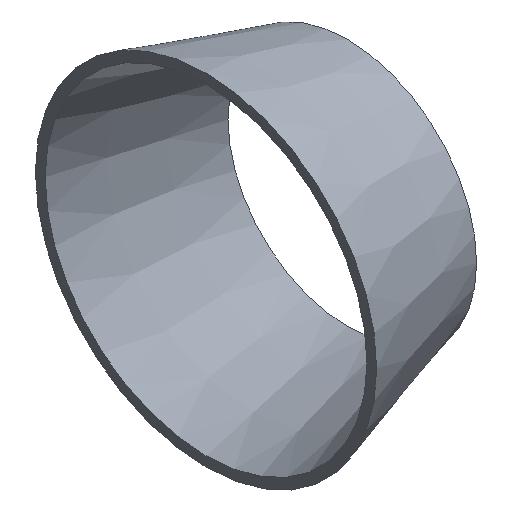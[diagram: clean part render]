
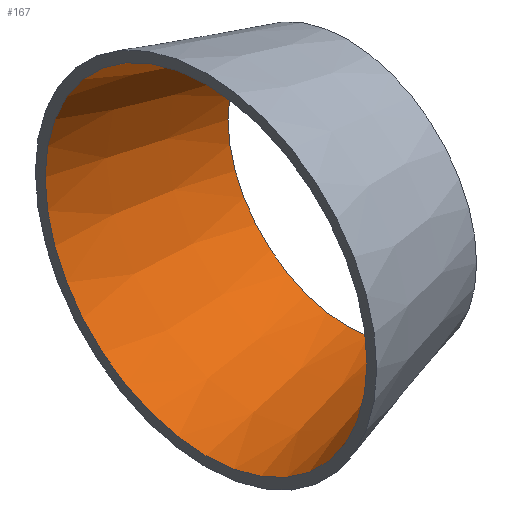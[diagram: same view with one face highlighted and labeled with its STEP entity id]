
A CAD part, isometric view. The second image highlights one B-rep face of the part: STEP entity #167.
In plain terms, the highlighted conical face has half-angle 16.336 degrees and reference radius 33 mm.
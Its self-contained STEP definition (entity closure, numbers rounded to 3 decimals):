
#43 = PLANE('',#44);
#44 = AXIS2_PLACEMENT_3D('',#45,#46,#47);
#45 = CARTESIAN_POINT('',(0.,0.,0.));
#46 = DIRECTION('',(1.,0.,0.));
#47 = DIRECTION('',(0.,1.,0.));
#90 = PLANE('',#91);
#91 = AXIS2_PLACEMENT_3D('',#92,#93,#94);
#92 = CARTESIAN_POINT('',(29.,0.,0.));
#93 = DIRECTION('',(1.,0.,0.));
#94 = DIRECTION('',(0.,1.,0.));
#109 = EDGE_CURVE('',#110,#110,#112,.T.);
#110 = VERTEX_POINT('',#111);
#111 = CARTESIAN_POINT('',(0.,33.,0.));
#112 = SURFACE_CURVE('',#113,(#118,#125),.PCURVE_S1.);
#113 = CIRCLE('',#114,33.);
#114 = AXIS2_PLACEMENT_3D('',#115,#116,#117);
#115 = CARTESIAN_POINT('',(0.,0.,0.));
#116 = DIRECTION('',(1.,0.,0.));
#117 = DIRECTION('',(0.,1.,0.));
#118 = PCURVE('',#43,#119);
#119 = DEFINITIONAL_REPRESENTATION('',(#120),#124);
#120 = CIRCLE('',#121,33.);
#121 = AXIS2_PLACEMENT_2D('',#122,#123);
#122 = CARTESIAN_POINT('',(0.,0.));
#123 = DIRECTION('',(1.,0.));
#124 = ( GEOMETRIC_REPRESENTATION_CONTEXT(2) 
PARAMETRIC_REPRESENTATION_CONTEXT() REPRESENTATION_CONTEXT('2D SPACE',''
  ) );
#125 = PCURVE('',#126,#131);
#126 = CONICAL_SURFACE('',#127,33.,0.285);
#127 = AXIS2_PLACEMENT_3D('',#128,#129,#130);
#128 = CARTESIAN_POINT('',(0.,0.,0.));
#129 = DIRECTION('',(-1.,-0.,-0.));
#130 = DIRECTION('',(0.,1.,0.));
#131 = DEFINITIONAL_REPRESENTATION('',(#132),#136);
#132 = LINE('',#133,#134);
#133 = CARTESIAN_POINT('',(-0.,-0.));
#134 = VECTOR('',#135,1.);
#135 = DIRECTION('',(-1.,-0.));
#136 = ( GEOMETRIC_REPRESENTATION_CONTEXT(2) 
PARAMETRIC_REPRESENTATION_CONTEXT() REPRESENTATION_CONTEXT('2D SPACE',''
  ) );
#144 = EDGE_CURVE('',#145,#145,#147,.T.);
#145 = VERTEX_POINT('',#146);
#146 = CARTESIAN_POINT('',(29.,24.5,0.));
#147 = SURFACE_CURVE('',#148,(#153,#160),.PCURVE_S1.);
#148 = CIRCLE('',#149,24.5);
#149 = AXIS2_PLACEMENT_3D('',#150,#151,#152);
#150 = CARTESIAN_POINT('',(29.,0.,0.));
#151 = DIRECTION('',(1.,0.,0.));
#152 = DIRECTION('',(0.,1.,0.));
#153 = PCURVE('',#90,#154);
#154 = DEFINITIONAL_REPRESENTATION('',(#155),#159);
#155 = CIRCLE('',#156,24.5);
#156 = AXIS2_PLACEMENT_2D('',#157,#158);
#157 = CARTESIAN_POINT('',(0.,0.));
#158 = DIRECTION('',(1.,0.));
#159 = ( GEOMETRIC_REPRESENTATION_CONTEXT(2) 
PARAMETRIC_REPRESENTATION_CONTEXT() REPRESENTATION_CONTEXT('2D SPACE',''
  ) );
#160 = PCURVE('',#126,#161);
#161 = DEFINITIONAL_REPRESENTATION('',(#162),#166);
#162 = LINE('',#163,#164);
#163 = CARTESIAN_POINT('',(-0.,-29.));
#164 = VECTOR('',#165,1.);
#165 = DIRECTION('',(-1.,-0.));
#166 = ( GEOMETRIC_REPRESENTATION_CONTEXT(2) 
PARAMETRIC_REPRESENTATION_CONTEXT() REPRESENTATION_CONTEXT('2D SPACE',''
  ) );
#167 = ADVANCED_FACE('',(#168),#126,.F.);
#168 = FACE_BOUND('',#169,.F.);
#169 = EDGE_LOOP('',(#170,#188,#189,#190));
#170 = ORIENTED_EDGE('',*,*,#171,.F.);
#171 = EDGE_CURVE('',#110,#145,#172,.T.);
#172 = SEAM_CURVE('',#173,(#176,#182),.PCURVE_S1.);
#173 = B_SPLINE_CURVE_WITH_KNOTS('',1,(#174,#175),.UNSPECIFIED.,.F.,.F.,
  (2,2),(0.,1.),.PIECEWISE_BEZIER_KNOTS.);
#174 = CARTESIAN_POINT('',(0.,33.,0.));
#175 = CARTESIAN_POINT('',(29.,24.5,0.));
#176 = PCURVE('',#126,#177);
#177 = DEFINITIONAL_REPRESENTATION('',(#178),#181);
#178 = B_SPLINE_CURVE_WITH_KNOTS('',1,(#179,#180),.UNSPECIFIED.,.F.,.F.,
  (2,2),(0.,1.),.PIECEWISE_BEZIER_KNOTS.);
#179 = CARTESIAN_POINT('',(0.,0.));
#180 = CARTESIAN_POINT('',(0.,-29.));
#181 = ( GEOMETRIC_REPRESENTATION_CONTEXT(2) 
PARAMETRIC_REPRESENTATION_CONTEXT() REPRESENTATION_CONTEXT('2D SPACE',''
  ) );
#182 = PCURVE('',#126,#183);
#183 = DEFINITIONAL_REPRESENTATION('',(#184),#187);
#184 = B_SPLINE_CURVE_WITH_KNOTS('',1,(#185,#186),.UNSPECIFIED.,.F.,.F.,
  (2,2),(0.,1.),.PIECEWISE_BEZIER_KNOTS.);
#185 = CARTESIAN_POINT('',(-6.283,0.));
#186 = CARTESIAN_POINT('',(-6.283,-29.));
#187 = ( GEOMETRIC_REPRESENTATION_CONTEXT(2) 
PARAMETRIC_REPRESENTATION_CONTEXT() REPRESENTATION_CONTEXT('2D SPACE',''
  ) );
#188 = ORIENTED_EDGE('',*,*,#109,.T.);
#189 = ORIENTED_EDGE('',*,*,#171,.T.);
#190 = ORIENTED_EDGE('',*,*,#144,.F.);
